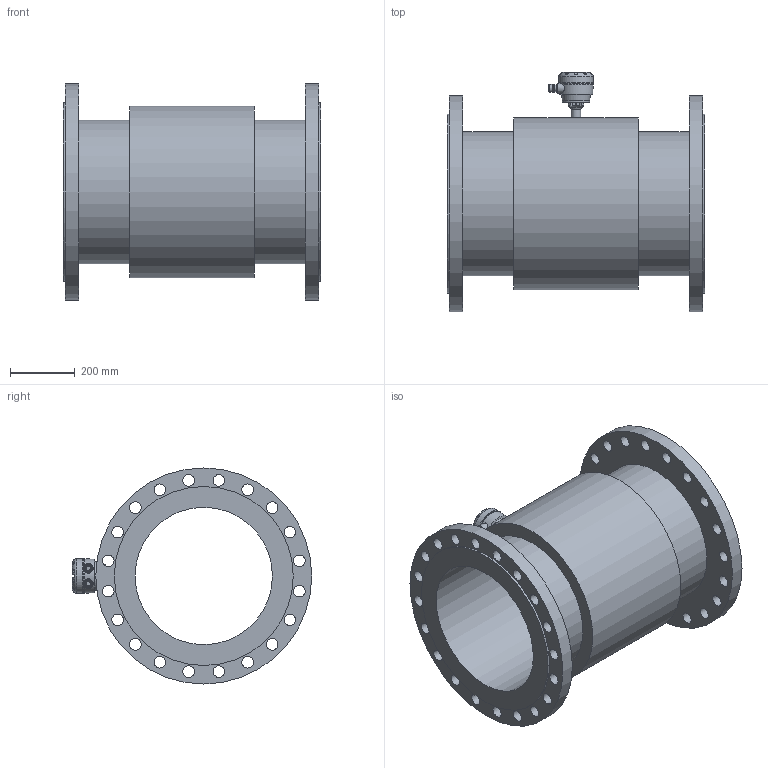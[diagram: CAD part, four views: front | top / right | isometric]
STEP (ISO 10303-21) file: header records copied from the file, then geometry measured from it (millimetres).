
FILE_DESCRIPTION (( 'STEP AP203' ), '1' );
FILE_NAME ('KROHNE_OPTIFLUX_2-4000W_DIN2634_DN450_PN25.STEP', '2011-04-26T11:25:28', ( '' ), ( '' ), 'SwSTEP 2.0', 'SolidWorks 2010', '' );
FILE_SCHEMA (( 'CONFIG_CONTROL_DESIGN' ));
Length unit declared in the file: millimetre
Products named in the file (1): KROHNE_OPTIFLUX_2-4000W_DIN2634_DN450_PN25
Bounding box: 800 x 742.99 x 670 mm (x, y, z)
Volume: 53563435.7 mm3; surface area: 3519268.8 mm2
Topology: 14 solids, 14 shells, 367 faces, 931 edges, 614 vertices
Faces by surface type: plane 158, cylinder 119, bspline 53, torus 18, sphere 13, cone 6
Full cylindrical faces by diameter (mm): 4 x4, 6.6 x8, 13 x2, 20 x2, 23.5 x4, 29 x1, 30 x2, 36 x40, 84 x2, 109 x1, 426 x1, 446 x2, 533 x1, 555 x2, 670 x2
Entity records: 14795 total; most frequent: CARTESIAN_POINT 6616, DIRECTION 1557, ORIENTED_EDGE 1554, EDGE_CURVE 777, EDGE_LOOP 598, AXIS2_PLACEMENT_3D 597, VERTEX_POINT 561, FACE_OUTER_BOUND 458
